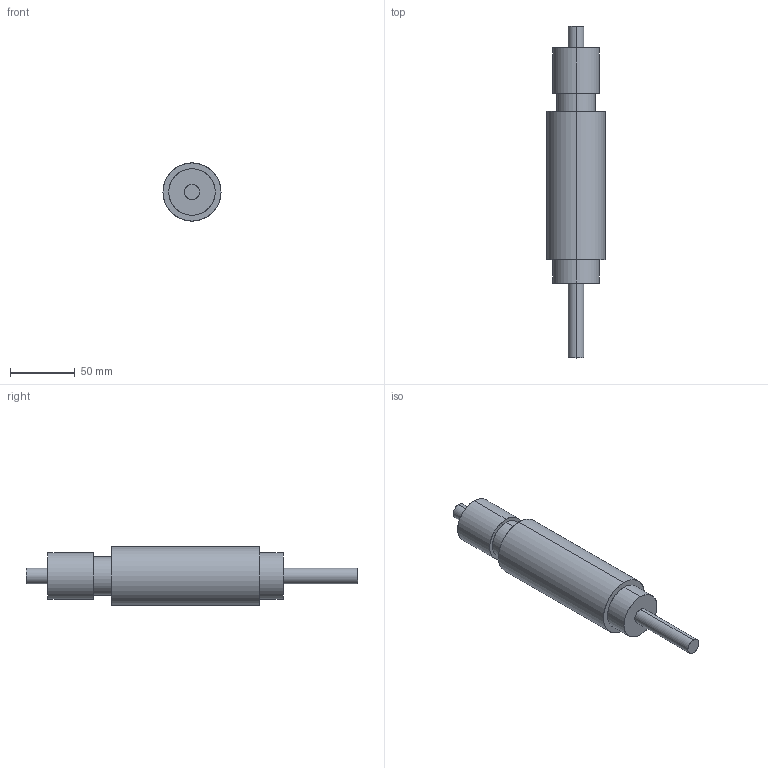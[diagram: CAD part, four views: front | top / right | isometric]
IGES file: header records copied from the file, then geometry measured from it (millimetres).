
Start section: START RECORD GO HERE.
Global section: file name: D995-1.igs; native system: DASSAULT SYSTEMES CATIA V5 R20 - www.3ds.com; preprocessor: CATIA Version 5 Release 20 ; author: Utente; organization: NB04-ASUS; date: 20200417.155959; units: millimetre
Bounding box: 45 x 257 x 45 mm (x, y, z)
Surface area: 30201.7 mm2 (no closed solid volume)
Topology: 0 solids, 0 shells, 19 faces, 72 edges, 72 vertices
Faces by surface type: revolution 12, extrusion 7
